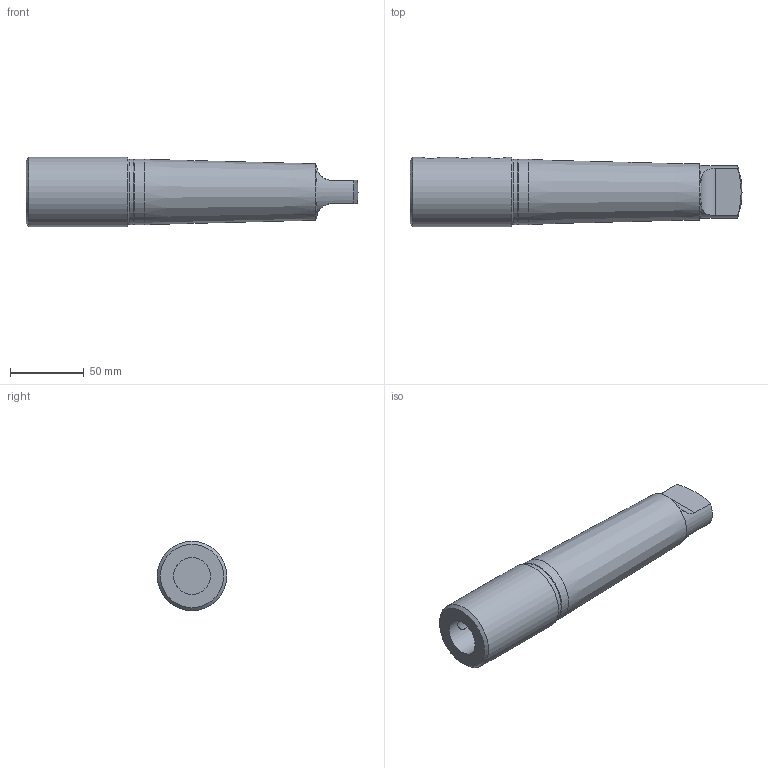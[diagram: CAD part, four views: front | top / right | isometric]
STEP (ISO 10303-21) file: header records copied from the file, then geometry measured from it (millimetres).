
FILE_DESCRIPTION(/* description */ (''),/* implementation_level */ '2;1');
FILE_NAME(/* name */ 'MTA5-SLA25.stp',/* time_stamp */ '2025-08-20T08:49:03+03:00',/* author */ ('User'),/* organization */ (''),/* preprocessor_version */ 'ST-DEVELOPER v19.2',/* originating_system */ 'Autodesk Inventor 2024',/* authorisation */ '');
FILE_SCHEMA (('AUTOMOTIVE_DESIGN { 1 0 10303 214 3 1 1 }'));
Length unit declared in the file: millimetre
Products named in the file (1): Деталь1
Bounding box: 225.5 x 47 x 47 mm (x, y, z)
Volume: 270129.2 mm3; surface area: 40984.2 mm2
Topology: 4 solids, 4 shells, 57 faces, 129 edges, 85 vertices
Faces by surface type: plane 30, cylinder 17, cone 6, bspline 4
Full cylindrical faces by diameter (mm): 11 x3, 11.2 x3, 25 x1, 44.3 x1, 44.379 x1, 47 x1
Entity records: 2418 total; most frequent: CARTESIAN_POINT 1051, ORIENTED_EDGE 256, DIRECTION 229, EDGE_CURVE 128, VERTEX_POINT 85, LINE 79, VECTOR 79, AXIS2_PLACEMENT_3D 75
